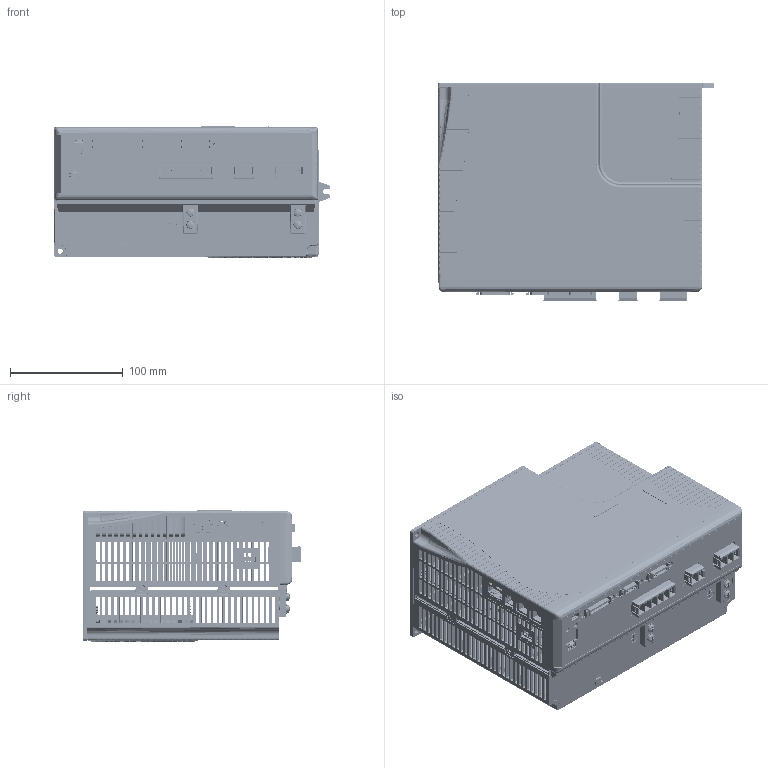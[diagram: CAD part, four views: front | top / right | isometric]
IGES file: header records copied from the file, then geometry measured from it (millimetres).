
Start section: SolidWorks IGES file using analytic representation for surfaces
Global section: file name: H:\ANaivelt\Roni\CDHD Catalog\CDHD_400V\CDHV 12A\Roni\CDHD-12A HV_cat.IGS; native system: SolidWorks 2009; preprocessor: SolidWorks 2009; author: Alexander.Naivelt; date: 140525.081104; units: millimetre
Bounding box: 245.36 x 193.5 x 116.37 mm (x, y, z)
Surface area: 489949.5 mm2 (no closed solid volume)
Topology: 0 solids, 0 shells, 13337 faces, 101667 edges, 101586 vertices
Faces by surface type: bspline 9920, revolution 3417
